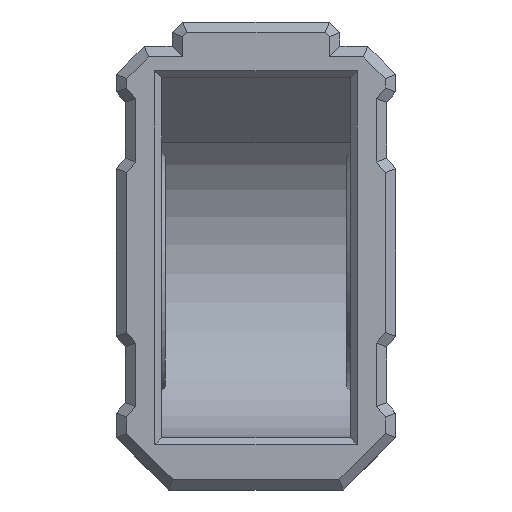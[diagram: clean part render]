
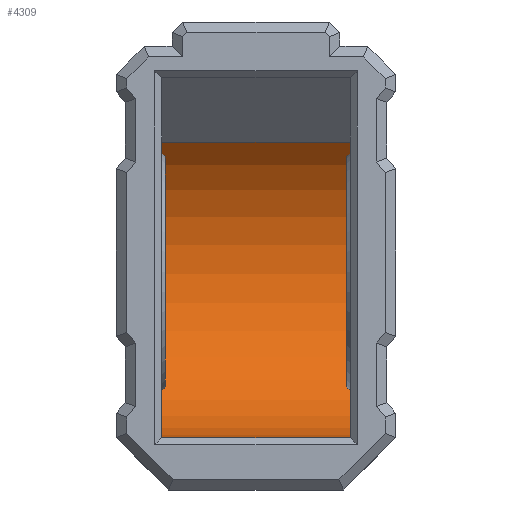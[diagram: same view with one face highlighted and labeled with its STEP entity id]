
A CAD part, front view. The second image highlights one B-rep face of the part: STEP entity #4309.
In plain terms, the highlighted cylindrical face has radius 9.9 mm (diameter 19.8 mm), a partial arc.
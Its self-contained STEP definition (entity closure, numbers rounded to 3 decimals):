
#19=CYLINDRICAL_SURFACE('',#4573,9.9);
#58=CIRCLE('',#4574,9.9);
#59=CIRCLE('',#4575,9.9);
#336=FACE_OUTER_BOUND('',#606,.T.);
#606=EDGE_LOOP('',(#3414,#3415,#3416,#3417));
#1033=LINE('',#7198,#1511);
#1034=LINE('',#7202,#1512);
#1511=VECTOR('',#5117,1000.);
#1512=VECTOR('',#5120,1000.);
#2166=VERTEX_POINT('',#7196);
#2167=VERTEX_POINT('',#7197);
#2168=VERTEX_POINT('',#7199);
#2169=VERTEX_POINT('',#7201);
#2626=EDGE_CURVE('',#2166,#2167,#1033,.T.);
#2627=EDGE_CURVE('',#2168,#2167,#58,.T.);
#2628=EDGE_CURVE('',#2168,#2169,#1034,.T.);
#2629=EDGE_CURVE('',#2166,#2169,#59,.T.);
#3414=ORIENTED_EDGE('',*,*,#2626,.T.);
#3415=ORIENTED_EDGE('',*,*,#2627,.F.);
#3416=ORIENTED_EDGE('',*,*,#2628,.T.);
#3417=ORIENTED_EDGE('',*,*,#2629,.F.);
#4309=ADVANCED_FACE('',(#336),#19,.F.);
#4573=AXIS2_PLACEMENT_3D('',#7195,#5115,#5116);
#4574=AXIS2_PLACEMENT_3D('',#7200,#5118,#5119);
#4575=AXIS2_PLACEMENT_3D('',#7203,#5121,#5122);
#5115=DIRECTION('center_axis',(1.,0.,0.));
#5116=DIRECTION('ref_axis',(0.,0.,-1.));
#5117=DIRECTION('',(-1.,0.,0.));
#5118=DIRECTION('center_axis',(1.,0.,0.));
#5119=DIRECTION('ref_axis',(0.,0.,-1.));
#5120=DIRECTION('',(1.,0.,0.));
#5121=DIRECTION('center_axis',(-1.,0.,0.));
#5122=DIRECTION('ref_axis',(0.,0.,1.));
#7195=CARTESIAN_POINT('Origin',(-30.273,9.5,-14.47));
#7196=CARTESIAN_POINT('',(13.4,16.5,-7.47));
#7197=CARTESIAN_POINT('',(2.6,16.5,-7.47));
#7198=CARTESIAN_POINT('',(21.077,16.5,-7.47));
#7199=CARTESIAN_POINT('',(2.6,9.5,-24.37));
#7200=CARTESIAN_POINT('Origin',(2.6,9.5,-14.47));
#7201=CARTESIAN_POINT('',(13.4,9.5,-24.37));
#7202=CARTESIAN_POINT('',(-30.273,9.5,-24.37));
#7203=CARTESIAN_POINT('Origin',(13.4,9.5,-14.47));
